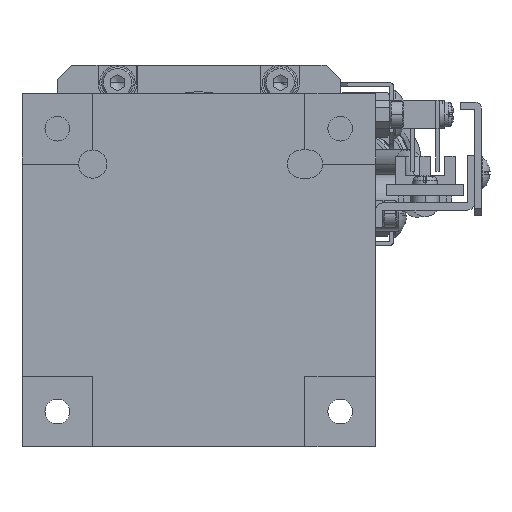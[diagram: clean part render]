
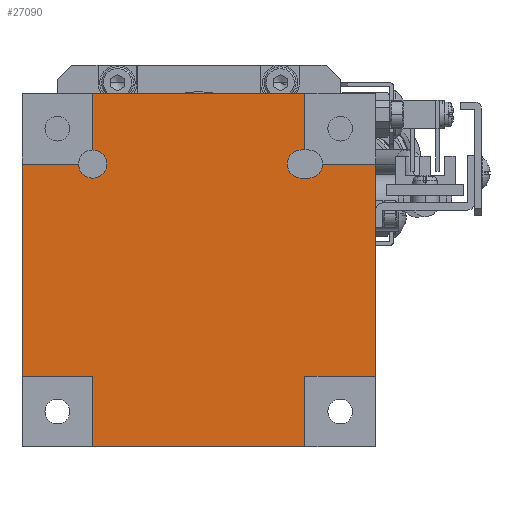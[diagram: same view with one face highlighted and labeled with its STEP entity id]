
A CAD part, front view. The second image highlights one B-rep face of the part: STEP entity #27090.
In plain terms, the highlighted planar face has unit normal (0, -1, 0) as drawn and (1, 0, 0) by its records, which use the part's own axes.
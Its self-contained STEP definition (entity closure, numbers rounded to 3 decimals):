
#446 = EDGE_CURVE ( 'NONE', #3663, #9829, #3647, .T. ) ;
#884 = DIRECTION ( 'NONE',  ( 0., 0., 1. ) ) ;
#2436 = CARTESIAN_POINT ( 'NONE',  ( 123.248, 40., 144.561 ) ) ;
#2811 = DIRECTION ( 'NONE',  ( 0., -1., 0. ) ) ;
#2887 = EDGE_CURVE ( 'NONE', #33335, #16320, #51669, .T. ) ;
#2940 = DIRECTION ( 'NONE',  ( 0., 1., 0. ) ) ;
#3369 = DIRECTION ( 'NONE',  ( 1., 0., 0. ) ) ;
#3647 = CIRCLE ( 'NONE', #10982, 2. ) ;
#3663 = VERTEX_POINT ( 'NONE', #50682 ) ;
#3700 = VECTOR ( 'NONE', #2811, 1000. ) ;
#6472 = VERTEX_POINT ( 'NONE', #49092 ) ;
#8556 = CARTESIAN_POINT ( 'NONE',  ( 123.248, 10., 104.561 ) ) ;
#8616 = VERTEX_POINT ( 'NONE', #16784 ) ;
#9401 = VERTEX_POINT ( 'NONE', #49847 ) ;
#9829 = VERTEX_POINT ( 'NONE', #11206 ) ;
#10537 = FACE_OUTER_BOUND ( 'NONE', #11254, .T. ) ;
#10780 = VERTEX_POINT ( 'NONE', #62968 ) ;
#10982 = AXIS2_PLACEMENT_3D ( 'NONE', #13467, #3369, #61569 ) ;
#11194 = AXIS2_PLACEMENT_3D ( 'NONE', #43968, #28111, #16724 ) ;
#11206 = CARTESIAN_POINT ( 'NONE',  ( 123.248, 39.5, 132.561 ) ) ;
#11254 = EDGE_LOOP ( 'NONE', ( #41166, #28219, #14969, #53465, #65560, #20587, #49470, #41178, #17033, #24338, #39995, #45963, #32457, #63909, #22386, #31533, #37729, #29915 ) ) ;
#11895 = VERTEX_POINT ( 'NONE', #20433 ) ;
#12023 = EDGE_CURVE ( 'NONE', #22373, #6472, #62191, .T. ) ;
#12165 = DIRECTION ( 'NONE',  ( 1., 0., 0. ) ) ;
#12271 = DIRECTION ( 'NONE',  ( 1., 0., 0. ) ) ;
#12817 = VERTEX_POINT ( 'NONE', #50886 ) ;
#13467 = CARTESIAN_POINT ( 'NONE',  ( 123.248, 39.5, 134.561 ) ) ;
#13628 = VERTEX_POINT ( 'NONE', #16209 ) ;
#14454 = LINE ( 'NONE', #43529, #41134 ) ;
#14756 = VECTOR ( 'NONE', #16052, 1000. ) ;
#14969 = ORIENTED_EDGE ( 'NONE', *, *, #50932, .T. ) ;
#15244 = EDGE_CURVE ( 'NONE', #22373, #3663, #41412, .T. ) ;
#15496 = CARTESIAN_POINT ( 'NONE',  ( 123.248, 50., 134.561 ) ) ;
#15950 = VECTOR ( 'NONE', #56223, 1000. ) ;
#16052 = DIRECTION ( 'NONE',  ( 0., 0., 1. ) ) ;
#16209 = CARTESIAN_POINT ( 'NONE',  ( 123.248, 8., 134.561 ) ) ;
#16320 = VERTEX_POINT ( 'NONE', #54908 ) ;
#16724 = DIRECTION ( 'NONE',  ( 0., 1., 0. ) ) ;
#16784 = CARTESIAN_POINT ( 'NONE',  ( 123.248, 10., 144.561 ) ) ;
#17033 = ORIENTED_EDGE ( 'NONE', *, *, #38017, .F. ) ;
#18138 = DIRECTION ( 'NONE',  ( 0., 1., 0. ) ) ;
#19591 = LINE ( 'NONE', #22159, #22925 ) ;
#19877 = VECTOR ( 'NONE', #43966, 1000. ) ;
#20433 = CARTESIAN_POINT ( 'NONE',  ( 123.248, 0., 104.561 ) ) ;
#20587 = ORIENTED_EDGE ( 'NONE', *, *, #41698, .F. ) ;
#21073 = DIRECTION ( 'NONE',  ( 0., -1., 0. ) ) ;
#21869 = LINE ( 'NONE', #31346, #65422 ) ;
#21878 = CARTESIAN_POINT ( 'NONE',  ( 123.248, 50., 136.561 ) ) ;
#22159 = CARTESIAN_POINT ( 'NONE',  ( 123.248, 10., 94.561 ) ) ;
#22365 = EDGE_CURVE ( 'NONE', #16320, #47264, #29716, .T. ) ;
#22373 = VERTEX_POINT ( 'NONE', #53331 ) ;
#22386 = ORIENTED_EDGE ( 'NONE', *, *, #22365, .T. ) ;
#22607 = DIRECTION ( 'NONE',  ( 0., -1., 0. ) ) ;
#22925 = VECTOR ( 'NONE', #884, 1000. ) ;
#23032 = VECTOR ( 'NONE', #49412, 1000. ) ;
#23232 = CIRCLE ( 'NONE', #11194, 2. ) ;
#24214 = CARTESIAN_POINT ( 'NONE',  ( 123.248, 10., 134.561 ) ) ;
#24338 = ORIENTED_EDGE ( 'NONE', *, *, #37944, .F. ) ;
#25329 = VERTEX_POINT ( 'NONE', #8556 ) ;
#26435 = LINE ( 'NONE', #53206, #14756 ) ;
#26472 = EDGE_CURVE ( 'NONE', #61073, #47264, #23232, .T. ) ;
#26594 = CARTESIAN_POINT ( 'NONE',  ( 123.248, 10., 94.561 ) ) ;
#27090 = ADVANCED_FACE ( 'NONE', ( #10537 ), #33645, .T. ) ;
#27262 = CARTESIAN_POINT ( 'NONE',  ( 123.248, 40., 104.561 ) ) ;
#27921 = DIRECTION ( 'NONE',  ( 0., 1., 0. ) ) ;
#28111 = DIRECTION ( 'NONE',  ( 1., 0., 0. ) ) ;
#28219 = ORIENTED_EDGE ( 'NONE', *, *, #12023, .T. ) ;
#29302 = EDGE_CURVE ( 'NONE', #33335, #50770, #14454, .T. ) ;
#29716 = LINE ( 'NONE', #15496, #57342 ) ;
#29915 = ORIENTED_EDGE ( 'NONE', *, *, #446, .F. ) ;
#31346 = CARTESIAN_POINT ( 'NONE',  ( 123.248, 40., 94.561 ) ) ;
#31411 = LINE ( 'NONE', #66033, #23032 ) ;
#31533 = ORIENTED_EDGE ( 'NONE', *, *, #26472, .F. ) ;
#32457 = ORIENTED_EDGE ( 'NONE', *, *, #29302, .F. ) ;
#32663 = LINE ( 'NONE', #26594, #37674 ) ;
#33335 = VERTEX_POINT ( 'NONE', #38593 ) ;
#33645 = PLANE ( 'NONE',  #39041 ) ;
#34620 = LINE ( 'NONE', #67573, #3700 ) ;
#34745 = EDGE_CURVE ( 'NONE', #9401, #55085, #59737, .T. ) ;
#34944 = DIRECTION ( 'NONE',  ( 1., 0., 0. ) ) ;
#37674 = VECTOR ( 'NONE', #63989, 1000. ) ;
#37729 = ORIENTED_EDGE ( 'NONE', *, *, #51957, .F. ) ;
#37944 = EDGE_CURVE ( 'NONE', #10780, #25329, #32663, .T. ) ;
#38017 = EDGE_CURVE ( 'NONE', #25329, #11895, #69447, .T. ) ;
#38593 = CARTESIAN_POINT ( 'NONE',  ( 123.248, 50., 104.561 ) ) ;
#38873 = CARTESIAN_POINT ( 'NONE',  ( 123.248, 50., 104.561 ) ) ;
#39041 = AXIS2_PLACEMENT_3D ( 'NONE', #43890, #12165, #49778 ) ;
#39296 = VECTOR ( 'NONE', #22607, 1000. ) ;
#39686 = CARTESIAN_POINT ( 'NONE',  ( 123.248, 42.5, 134.561 ) ) ;
#39995 = ORIENTED_EDGE ( 'NONE', *, *, #60646, .F. ) ;
#41134 = VECTOR ( 'NONE', #58777, 1000. ) ;
#41166 = ORIENTED_EDGE ( 'NONE', *, *, #15244, .F. ) ;
#41172 = AXIS2_PLACEMENT_3D ( 'NONE', #24214, #34944, #2940 ) ;
#41178 = ORIENTED_EDGE ( 'NONE', *, *, #60549, .F. ) ;
#41412 = LINE ( 'NONE', #21878, #68231 ) ;
#41698 = EDGE_CURVE ( 'NONE', #13628, #9401, #67736, .T. ) ;
#41838 = DIRECTION ( 'NONE',  ( 0., 0., 1. ) ) ;
#41850 = CARTESIAN_POINT ( 'NONE',  ( 123.248, 10., 136.561 ) ) ;
#42530 = CARTESIAN_POINT ( 'NONE',  ( 123.248, 40.5, 132.561 ) ) ;
#43529 = CARTESIAN_POINT ( 'NONE',  ( 123.248, 50., 104.561 ) ) ;
#43825 = CARTESIAN_POINT ( 'NONE',  ( 123.248, 50., 104.561 ) ) ;
#43890 = CARTESIAN_POINT ( 'NONE',  ( 123.248, 50., 104.561 ) ) ;
#43966 = DIRECTION ( 'NONE',  ( 0., 0., 1. ) ) ;
#43968 = CARTESIAN_POINT ( 'NONE',  ( 123.248, 40.5, 134.561 ) ) ;
#44314 = LINE ( 'NONE', #2436, #15950 ) ;
#45963 = ORIENTED_EDGE ( 'NONE', *, *, #58687, .T. ) ;
#47115 = VERTEX_POINT ( 'NONE', #57556 ) ;
#47264 = VERTEX_POINT ( 'NONE', #39686 ) ;
#48444 = VECTOR ( 'NONE', #18138, 1000. ) ;
#48937 = EDGE_CURVE ( 'NONE', #55085, #8616, #19591, .T. ) ;
#48957 = DIRECTION ( 'NONE',  ( 0., -1., 0. ) ) ;
#49092 = CARTESIAN_POINT ( 'NONE',  ( 123.248, 40., 144.561 ) ) ;
#49412 = DIRECTION ( 'NONE',  ( 0., -1., 0. ) ) ;
#49470 = ORIENTED_EDGE ( 'NONE', *, *, #61372, .T. ) ;
#49778 = DIRECTION ( 'NONE',  ( 0., 1., 0. ) ) ;
#49847 = CARTESIAN_POINT ( 'NONE',  ( 123.248, 12., 134.561 ) ) ;
#50682 = CARTESIAN_POINT ( 'NONE',  ( 123.248, 39.5, 136.561 ) ) ;
#50770 = VERTEX_POINT ( 'NONE', #27262 ) ;
#50886 = CARTESIAN_POINT ( 'NONE',  ( 123.248, 0., 134.561 ) ) ;
#50932 = EDGE_CURVE ( 'NONE', #6472, #8616, #44314, .T. ) ;
#51669 = LINE ( 'NONE', #38873, #19877 ) ;
#51957 = EDGE_CURVE ( 'NONE', #9829, #61073, #67747, .T. ) ;
#53028 = VECTOR ( 'NONE', #65059, 1000. ) ;
#53206 = CARTESIAN_POINT ( 'NONE',  ( 123.248, 0., 104.561 ) ) ;
#53331 = CARTESIAN_POINT ( 'NONE',  ( 123.248, 40., 136.561 ) ) ;
#53465 = ORIENTED_EDGE ( 'NONE', *, *, #48937, .F. ) ;
#54908 = CARTESIAN_POINT ( 'NONE',  ( 123.248, 50., 134.561 ) ) ;
#55085 = VERTEX_POINT ( 'NONE', #41850 ) ;
#56223 = DIRECTION ( 'NONE',  ( 0., -1., 0. ) ) ;
#57342 = VECTOR ( 'NONE', #21073, 1000. ) ;
#57556 = CARTESIAN_POINT ( 'NONE',  ( 123.248, 40., 94.561 ) ) ;
#58687 = EDGE_CURVE ( 'NONE', #47115, #50770, #21869, .T. ) ;
#58777 = DIRECTION ( 'NONE',  ( 0., -1., 0. ) ) ;
#59710 = CARTESIAN_POINT ( 'NONE',  ( 123.248, 10., 134.561 ) ) ;
#59737 = CIRCLE ( 'NONE', #63099, 2. ) ;
#60549 = EDGE_CURVE ( 'NONE', #11895, #12817, #26435, .T. ) ;
#60646 = EDGE_CURVE ( 'NONE', #47115, #10780, #31411, .T. ) ;
#60851 = CARTESIAN_POINT ( 'NONE',  ( 123.248, 50., 132.561 ) ) ;
#61073 = VERTEX_POINT ( 'NONE', #42530 ) ;
#61372 = EDGE_CURVE ( 'NONE', #13628, #12817, #34620, .T. ) ;
#61569 = DIRECTION ( 'NONE',  ( 0., 1., 0. ) ) ;
#62191 = LINE ( 'NONE', #65551, #53028 ) ;
#62968 = CARTESIAN_POINT ( 'NONE',  ( 123.248, 10., 94.561 ) ) ;
#63099 = AXIS2_PLACEMENT_3D ( 'NONE', #59710, #12271, #27921 ) ;
#63909 = ORIENTED_EDGE ( 'NONE', *, *, #2887, .T. ) ;
#63989 = DIRECTION ( 'NONE',  ( 0., 0., 1. ) ) ;
#65059 = DIRECTION ( 'NONE',  ( 0., 0., 1. ) ) ;
#65422 = VECTOR ( 'NONE', #41838, 1000. ) ;
#65551 = CARTESIAN_POINT ( 'NONE',  ( 123.248, 40., 94.561 ) ) ;
#65560 = ORIENTED_EDGE ( 'NONE', *, *, #34745, .F. ) ;
#66033 = CARTESIAN_POINT ( 'NONE',  ( 123.248, 40., 94.561 ) ) ;
#67573 = CARTESIAN_POINT ( 'NONE',  ( 123.248, 50., 134.561 ) ) ;
#67736 = CIRCLE ( 'NONE', #41172, 2. ) ;
#67747 = LINE ( 'NONE', #60851, #48444 ) ;
#68231 = VECTOR ( 'NONE', #48957, 1000. ) ;
#69447 = LINE ( 'NONE', #43825, #39296 ) ;
